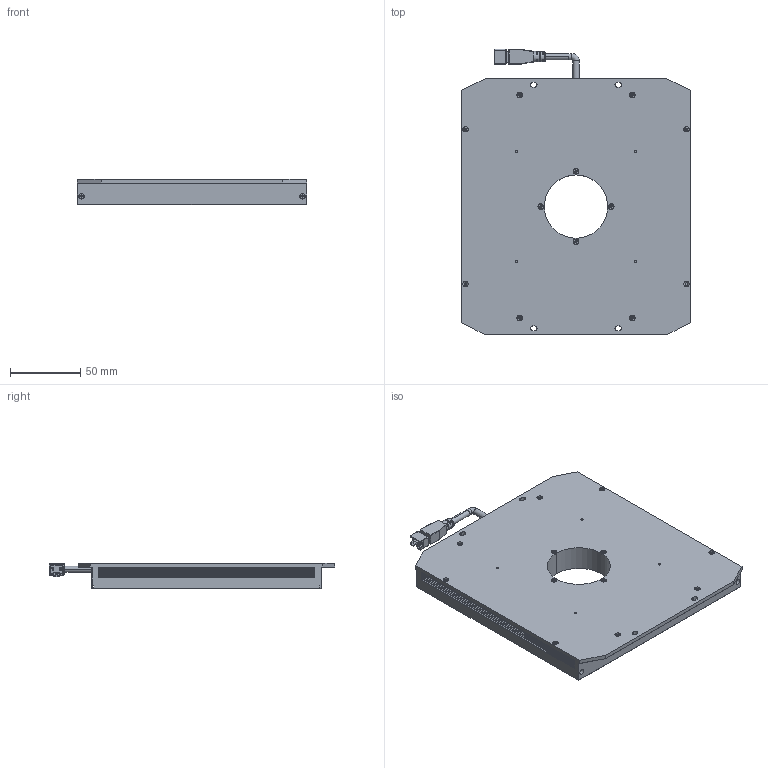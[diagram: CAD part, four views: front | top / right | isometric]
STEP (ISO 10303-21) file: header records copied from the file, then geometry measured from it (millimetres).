
FILE_DESCRIPTION((''),'2;1');
FILE_NAME('LS-LBES-H-150-150-X2','2022-11-04T11:49:06',('LumaSpec Vision'),('LumaSpec Vision'),'CREO PARAMETRIC BY PTC INC, 2020044','CREO PARAMETRIC BY PTC INC, 2020044','');
FILE_SCHEMA(('AUTOMOTIVE_DESIGN { 1 0 10303 214 1 1 1 1 }'));
Length unit declared in the file: millimetre
Products named in the file (1): PRT0001
Bounding box: 163 x 202.75 x 18 mm (x, y, z)
Volume: 458757 mm3; surface area: 76530.1 mm2
Topology: 1 solids, 43 shells, 1565 faces, 3695 edges, 2228 vertices
Faces by surface type: plane 935, cylinder 415, cone 140, torus 59, sphere 8, bspline 8
Entity records: 45677 total; most frequent: CARTESIAN_POINT 8895, DIRECTION 7523, ORIENTED_EDGE 7334, EDGE_CURVE 3667, AXIS2_PLACEMENT_3D 2563, VECTOR 2397, LINE 2397, VERTEX_POINT 2228
